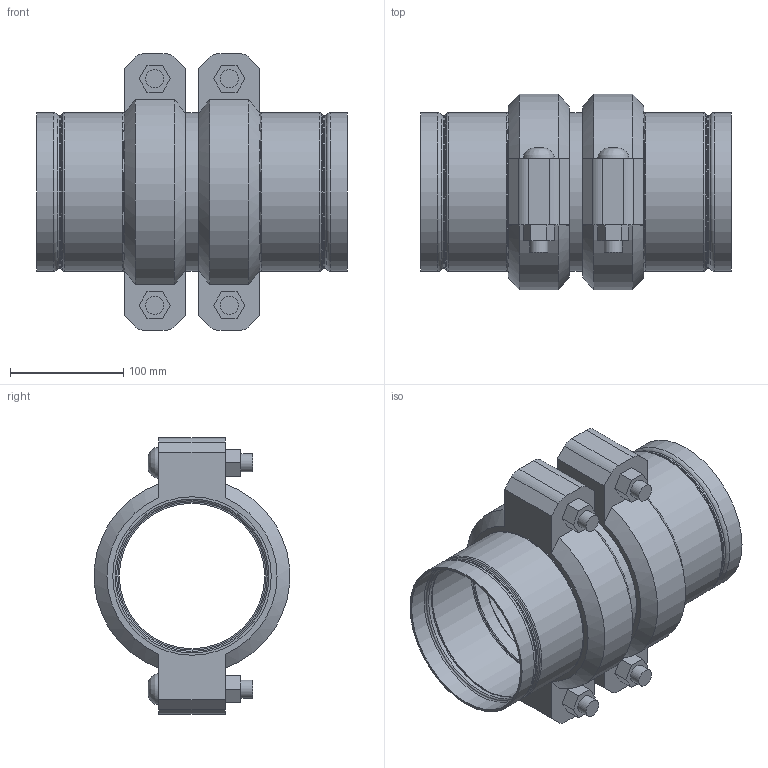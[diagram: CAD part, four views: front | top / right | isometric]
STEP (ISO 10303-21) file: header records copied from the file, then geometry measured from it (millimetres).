
FILE_DESCRIPTION(/* description */ ('VIC STRENGTHIN 100 EXPANSION JOINT 2 COUPLINGS EXPANDED STYLE E155 (ST1)','CAx-IF Rec.Pracs.---Representation and Presentation of Product Manufacturing Information (PMI)---4.0---2014-10-13'),/* implementation_level */ '2;1');
FILE_NAME(/* name */ 'C:\Users\Vjadhav\AppData\Roaming\Autodesk\ApplicationPlugins\Victaulic.Temp\A901\Victaulic_SS-StrengThin 100_Expansion Joint_Expanded_2 Couplings_Style E155 (ST1)_05.0 (139.7) (125).stp',/* time_stamp */ '2021-07-23T19:27:05+06:00',/* author */ ('kkamble'),/* organization */ ('Victaulic'),/* preprocessor_version */ 'ST-DEVELOPER v17.2',/* originating_system */ 'Autodesk Inventor 2019',/* authorisation */ '');
FILE_SCHEMA (('AP242_MANAGED_MODEL_BASED_3D_ENGINEERING_MIM_LF { 1 0 10303 442 1 1 4 }'));
Length unit declared in the file: inch
Products named in the file (4): E155-05.0 (139.7); E494G-05.0 (139.7); Nipple-05.0 (139.7); 075-05.0 (139.7)
Assembly tree (5 placements, depth 2):
  E155-05.0 (139.7)
    E494G-05.0 (139.7)  x2
    Nipple-05.0 (139.7)
    075-05.0 (139.7)  x2
Bounding box: 274.07 x 172.14 x 243.59 mm (x, y, z)
Volume: 1583281.7 mm3; surface area: 442869 mm2
Topology: 5 solids, 9 shells, 194 faces, 518 edges, 370 vertices
Faces by surface type: plane 90, cylinder 56, torus 32, cone 12, bspline 4
Full cylindrical faces by diameter (mm): 15.875 x8, 17.424 x4, 128.194 x1, 130.505 x2, 131.47 x2, 133.35 x2, 134.518 x2, 135.484 x4, 135.687 x6, 139.7 x13
Entity records: 3702 total; most frequent: DIRECTION 653, CARTESIAN_POINT 651, ORIENTED_EDGE 548, AXIS2_PLACEMENT_3D 277, EDGE_CURVE 274, VERTEX_POINT 197, CIRCLE 167, EDGE_LOOP 129
